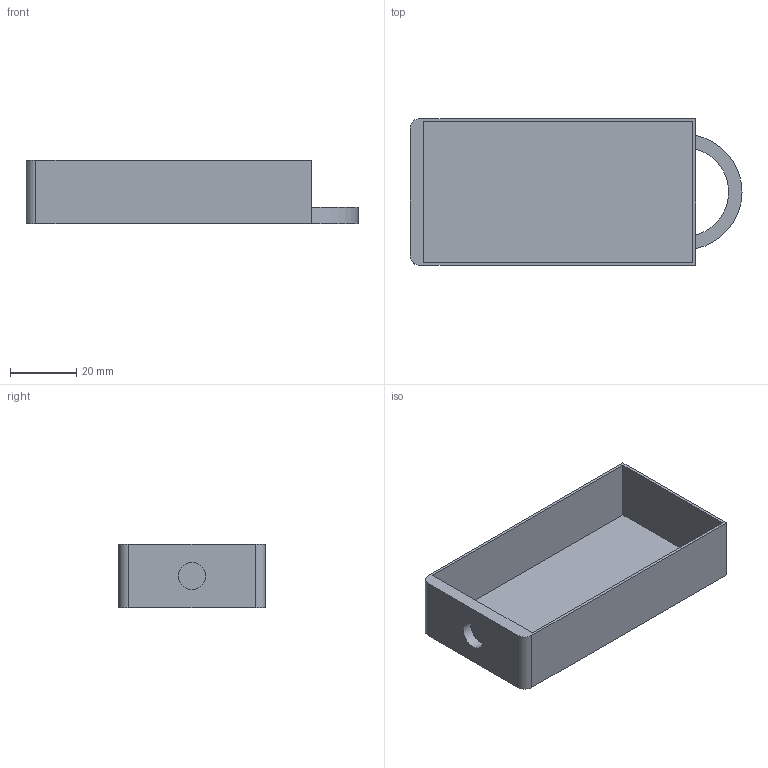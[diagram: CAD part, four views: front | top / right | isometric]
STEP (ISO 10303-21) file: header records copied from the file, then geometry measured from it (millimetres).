
FILE_DESCRIPTION(/* description */ (''),/* implementation_level */ '2;1');
FILE_NAME(/* name */ 'C:/Users/pet3r/Desktop/3D/MOJE/My Drawers/STEP/Drawer 1x1.step',/* time_stamp */ '2018-03-31T21:33:21+02:00',/* author */ (''),/* organization */ (''),/* preprocessor_version */ 'ST-DEVELOPER v16.13',/* originating_system */ 'Autodesk Translation Framework v6.5.0.72',/* authorisation */ '');
FILE_SCHEMA (('AUTOMOTIVE_DESIGN { 1 0 10303 214 3 1 1 }'));
Length unit declared in the file: millimetre
Products named in the file (1): Drawer 1x1
Bounding box: 100 x 44.2 x 19.2 mm (x, y, z)
Volume: 10640 mm3; surface area: 17855.6 mm2
Topology: 1 solids, 1 shells, 18 faces, 45 edges, 30 vertices
Faces by surface type: plane 13, cylinder 5
Full cylindrical faces by diameter (mm): 8.3 x1
Entity records: 583 total; most frequent: CARTESIAN_POINT 94, DIRECTION 93, ORIENTED_EDGE 90, EDGE_CURVE 45, LINE 35, VECTOR 35, VERTEX_POINT 30, AXIS2_PLACEMENT_3D 29
